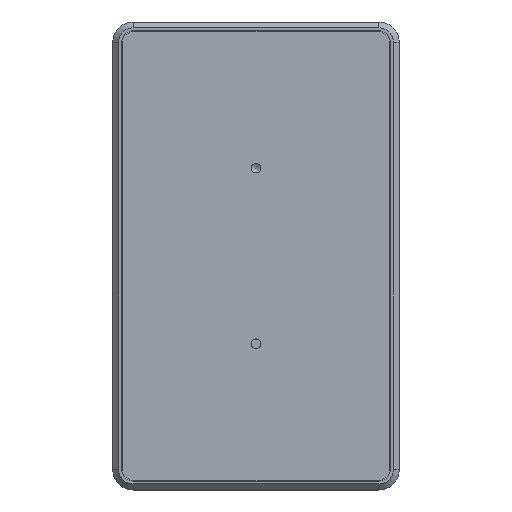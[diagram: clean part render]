
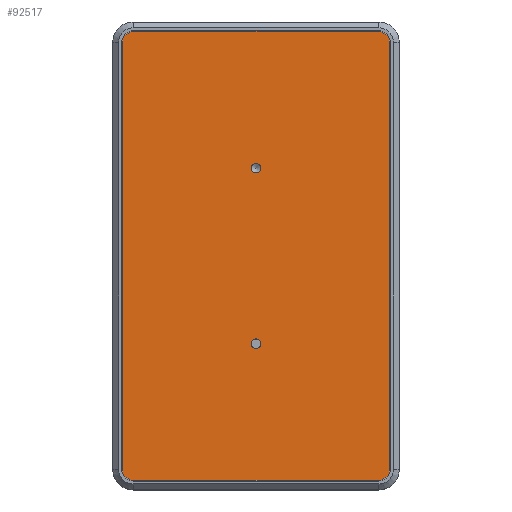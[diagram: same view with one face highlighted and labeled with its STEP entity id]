
A CAD part, top view. The second image highlights one B-rep face of the part: STEP entity #92517.
In plain terms, the highlighted planar face has unit normal (0, 0, 1).
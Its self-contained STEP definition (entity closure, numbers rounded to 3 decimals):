
#1215=FACE_BOUND('',#14149,.T.);
#1216=FACE_BOUND('',#14150,.T.);
#4562=PLANE('',#98393);
#9181=FACE_OUTER_BOUND('',#14148,.T.);
#14148=EDGE_LOOP('',(#82515,#82516,#82517,#82518,#82519,#82520,#82521,#82522));
#14149=EDGE_LOOP('',(#82523));
#14150=EDGE_LOOP('',(#82524));
#14397=CIRCLE('',#92983,4.);
#14398=CIRCLE('',#92986,4.);
#14399=CIRCLE('',#92989,4.);
#14400=CIRCLE('',#92992,4.);
#14401=CIRCLE('',#92994,1.621);
#14403=CIRCLE('',#92998,1.621);
#17354=LINE('',#121067,#27049);
#17358=LINE('',#121076,#27053);
#17361=LINE('',#121084,#27056);
#17364=LINE('',#121092,#27059);
#27049=VECTOR('',#99564,10.);
#27053=VECTOR('',#99574,10.);
#27056=VECTOR('',#99583,10.);
#27059=VECTOR('',#99592,10.);
#36790=VERTEX_POINT('',#121065);
#36791=VERTEX_POINT('',#121066);
#36792=VERTEX_POINT('',#121071);
#36793=VERTEX_POINT('',#121075);
#36794=VERTEX_POINT('',#121079);
#36795=VERTEX_POINT('',#121083);
#36796=VERTEX_POINT('',#121087);
#36797=VERTEX_POINT('',#121091);
#36798=VERTEX_POINT('',#121097);
#36801=VERTEX_POINT('',#121106);
#45292=EDGE_CURVE('',#36790,#36791,#17354,.T.);
#45295=EDGE_CURVE('',#36792,#36790,#14397,.T.);
#45297=EDGE_CURVE('',#36793,#36792,#17358,.T.);
#45299=EDGE_CURVE('',#36794,#36793,#14398,.T.);
#45301=EDGE_CURVE('',#36795,#36794,#17361,.T.);
#45303=EDGE_CURVE('',#36796,#36795,#14399,.T.);
#45305=EDGE_CURVE('',#36797,#36796,#17364,.T.);
#45307=EDGE_CURVE('',#36791,#36797,#14400,.T.);
#45308=EDGE_CURVE('',#36798,#36798,#14401,.T.);
#45312=EDGE_CURVE('',#36801,#36801,#14403,.T.);
#82515=ORIENTED_EDGE('',*,*,#45307,.F.);
#82516=ORIENTED_EDGE('',*,*,#45292,.F.);
#82517=ORIENTED_EDGE('',*,*,#45295,.F.);
#82518=ORIENTED_EDGE('',*,*,#45297,.F.);
#82519=ORIENTED_EDGE('',*,*,#45299,.F.);
#82520=ORIENTED_EDGE('',*,*,#45301,.F.);
#82521=ORIENTED_EDGE('',*,*,#45303,.F.);
#82522=ORIENTED_EDGE('',*,*,#45305,.F.);
#82523=ORIENTED_EDGE('',*,*,#45312,.T.);
#82524=ORIENTED_EDGE('',*,*,#45308,.T.);
#92517=ADVANCED_FACE('',(#9181,#1215,#1216),#4562,.F.);
#92983=AXIS2_PLACEMENT_3D('',#121072,#99569,#99570);
#92986=AXIS2_PLACEMENT_3D('',#121080,#99578,#99579);
#92989=AXIS2_PLACEMENT_3D('',#121088,#99587,#99588);
#92992=AXIS2_PLACEMENT_3D('',#121095,#99596,#99597);
#92994=AXIS2_PLACEMENT_3D('',#121098,#99600,#99601);
#92998=AXIS2_PLACEMENT_3D('',#121107,#99610,#99611);
#98393=AXIS2_PLACEMENT_3D('',#199663,#119767,#119768);
#99564=DIRECTION('',(-1.,0.,0.));
#99569=DIRECTION('center_axis',(0.,0.,
-1.));
#99570=DIRECTION('ref_axis',(0.,-1.,0.));
#99574=DIRECTION('',(0.,-1.,0.));
#99578=DIRECTION('center_axis',(0.,0.,
-1.));
#99579=DIRECTION('ref_axis',(1.,0.,0.));
#99583=DIRECTION('',(1.,0.,0.));
#99587=DIRECTION('center_axis',(0.,0.,
-1.));
#99588=DIRECTION('ref_axis',(0.,1.,0.));
#99592=DIRECTION('',(0.,1.,0.));
#99596=DIRECTION('center_axis',(0.,0.,
-1.));
#99597=DIRECTION('ref_axis',(-1.,0.,0.));
#99600=DIRECTION('center_axis',(0.,0.,
-1.));
#99601=DIRECTION('ref_axis',(1.,0.,0.));
#99610=DIRECTION('center_axis',(0.,0.,
-1.));
#99611=DIRECTION('ref_axis',(1.,0.,0.));
#119767=DIRECTION('center_axis',(0.,0.,
-1.));
#119768=DIRECTION('ref_axis',(-1.,0.,0.));
#121065=CARTESIAN_POINT('',(91.074,4.14,33.));
#121066=CARTESIAN_POINT('',(7.574,4.14,33.));
#121067=CARTESIAN_POINT('',(7.574,4.14,33.));
#121071=CARTESIAN_POINT('',(95.074,8.14,33.));
#121072=CARTESIAN_POINT('Origin',(91.074,8.14,33.));
#121075=CARTESIAN_POINT('',(95.074,153.64,33.));
#121076=CARTESIAN_POINT('',(95.074,8.14,33.));
#121079=CARTESIAN_POINT('',(91.074,157.64,33.));
#121080=CARTESIAN_POINT('Origin',(91.074,153.64,33.));
#121083=CARTESIAN_POINT('',(7.574,157.64,33.));
#121084=CARTESIAN_POINT('',(91.074,157.64,33.));
#121087=CARTESIAN_POINT('',(3.574,153.64,33.));
#121088=CARTESIAN_POINT('Origin',(7.574,153.64,33.));
#121091=CARTESIAN_POINT('',(3.574,8.14,33.));
#121092=CARTESIAN_POINT('',(3.574,153.64,33.));
#121095=CARTESIAN_POINT('Origin',(7.574,8.14,33.));
#121097=CARTESIAN_POINT('',(47.703,50.89,33.));
#121098=CARTESIAN_POINT('Origin',(49.324,50.89,33.));
#121106=CARTESIAN_POINT('',(47.703,110.89,33.));
#121107=CARTESIAN_POINT('Origin',(49.324,110.89,33.));
#199663=CARTESIAN_POINT('Origin',(9.324,9.89,33.));
